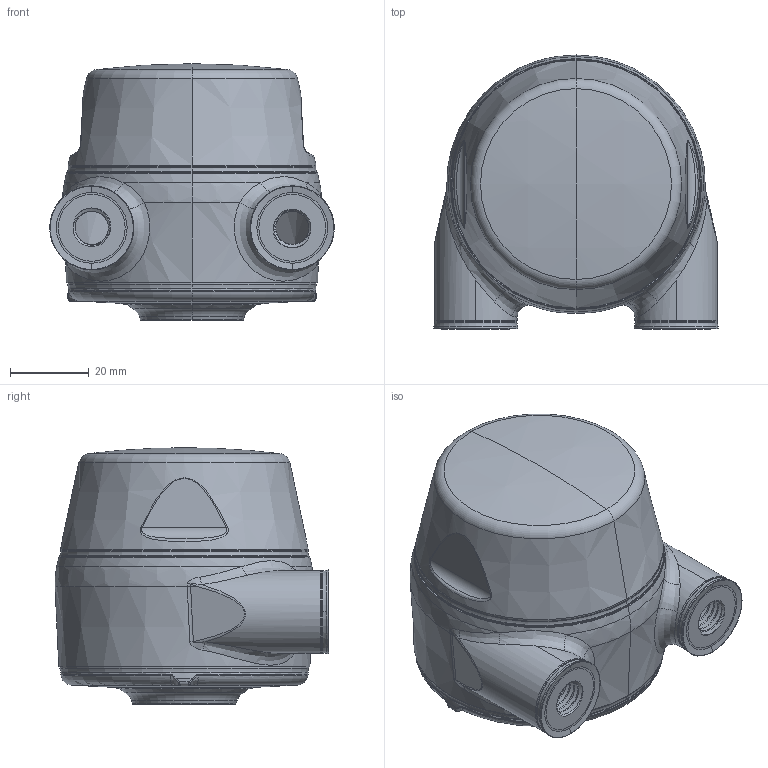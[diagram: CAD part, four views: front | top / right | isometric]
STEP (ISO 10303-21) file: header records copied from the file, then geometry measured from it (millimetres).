
FILE_DESCRIPTION (( 'STEP AP203' ), '1' );
FILE_NAME ('XBTBC52(Blue)-SSB2540(Front)-CL(Blue)-OS(Blue)_Shell.step', '2020-08-04T09:21:00', ( '' ), ( '' ), 'SwSTEP 2.0', 'SolidWorks 2019', '' );
FILE_SCHEMA (( 'CONFIG_CONTROL_DESIGN' ));
Length unit declared in the file: millimetre
Products named in the file (1): XBTBC52(Blue)-SSB2540(Front)-CL(Blue)-OS(Blue)_Shell
Bounding box: 72.4 x 69.69 x 65.25 mm (x, y, z)
Surface area: 28674.6 mm2 (no closed solid volume)
Topology: 0 solids, 16 shells, 242 faces, 778 edges, 544 vertices
Faces by surface type: cylinder 58, bspline 56, cone 53, torus 52, plane 17, sphere 6
Entity records: 17209 total; most frequent: CARTESIAN_POINT 10883, ORIENTED_EDGE 1274, DIRECTION 1253, EDGE_CURVE 778, AXIS2_PLACEMENT_3D 552, VERTEX_POINT 544, CIRCLE 365, EDGE_LOOP 258
